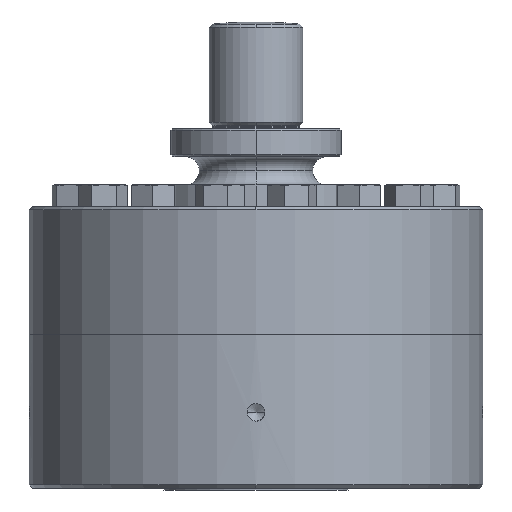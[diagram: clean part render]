
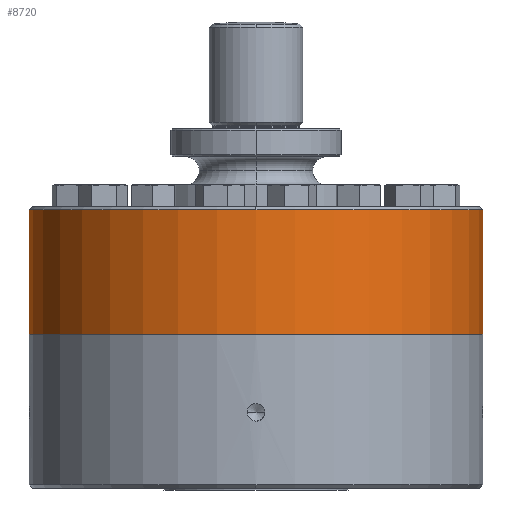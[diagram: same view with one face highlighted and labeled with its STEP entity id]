
A CAD part, left-side view. The second image highlights one B-rep face of the part: STEP entity #8720.
In plain terms, the highlighted cylindrical face has radius 101.575 mm (diameter 203.149 mm), a partial arc.
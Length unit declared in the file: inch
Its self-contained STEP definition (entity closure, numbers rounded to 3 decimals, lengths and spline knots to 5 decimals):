
#412 = VERTEX_POINT ( 'NONE', #13146 ) ;
#655 = EDGE_CURVE ( 'NONE', #11133, #412, #13247, .T. ) ;
#1732 = CIRCLE ( 'NONE', #1733, 3.999 ) ;
#1733 = AXIS2_PLACEMENT_3D ( 'NONE', #1734, #1735, #1736 ) ;
#1734 = CARTESIAN_POINT ( 'NONE',  ( 0., 0., 2.19 ) ) ;
#1735 = DIRECTION ( 'NONE',  ( 0., 0., 1. ) ) ;
#1736 = DIRECTION ( 'NONE',  ( -1., 0., 0. ) ) ;
#3577 = FACE_OUTER_BOUND ( 'NONE', #8431, .T. ) ;
#3578 = CYLINDRICAL_SURFACE ( 'NONE', #3579, 3.999 ) ;
#3579 = AXIS2_PLACEMENT_3D ( 'NONE', #3580, #3581, #3582 ) ;
#3580 = CARTESIAN_POINT ( 'NONE',  ( 0., 0., 2.19 ) ) ;
#3581 = DIRECTION ( 'NONE',  ( 0., 0., -1. ) ) ;
#3582 = DIRECTION ( 'NONE',  ( 0., 1., 0. ) ) ;
#4847 = CARTESIAN_POINT ( 'NONE',  ( 0., -3.999, 2.19 ) ) ;
#5503 = ORIENTED_EDGE ( 'NONE', *, *, #11254, .F. ) ;
#5733 = CARTESIAN_POINT ( 'NONE',  ( 0., 3.999, 2.19 ) ) ;
#5791 = EDGE_CURVE ( 'NONE', #412, #10538, #1732, .T. ) ;
#6000 = LINE ( 'NONE', #6001, #6002 ) ;
#6001 = CARTESIAN_POINT ( 'NONE',  ( 0., 3.999, 2.19 ) ) ;
#6002 = VECTOR ( 'NONE', #6003, 39.37008 ) ;
#6003 = DIRECTION ( 'NONE',  ( 0., 0., -1. ) ) ;
#6091 = ORIENTED_EDGE ( 'NONE', *, *, #11198, .T. ) ;
#6110 = CIRCLE ( 'NONE', #6111, 3.999 ) ;
#6111 = AXIS2_PLACEMENT_3D ( 'NONE', #6112, #6113, #6114 ) ;
#6112 = CARTESIAN_POINT ( 'NONE',  ( 0., 0., 0. ) ) ;
#6113 = DIRECTION ( 'NONE',  ( 0., 0., -1. ) ) ;
#6114 = DIRECTION ( 'NONE',  ( 0., 1., 0. ) ) ;
#6432 = CARTESIAN_POINT ( 'NONE',  ( 0., 3.999, 0. ) ) ;
#6683 = ORIENTED_EDGE ( 'NONE', *, *, #655, .F. ) ;
#7198 = CARTESIAN_POINT ( 'NONE',  ( 0., -3.999, 0. ) ) ;
#7262 = ORIENTED_EDGE ( 'NONE', *, *, #5791, .F. ) ;
#7302 = LINE ( 'NONE', #7304, #7305 ) ;
#7304 = CARTESIAN_POINT ( 'NONE',  ( 0., -3.999, 2.19 ) ) ;
#7305 = VECTOR ( 'NONE', #7306, 39.37008 ) ;
#7306 = DIRECTION ( 'NONE',  ( 0., 0., -1. ) ) ;
#7841 = ORIENTED_EDGE ( 'NONE', *, *, #11761, .F. ) ;
#8431 = EDGE_LOOP ( 'NONE', ( #7841, #7262, #6683, #6091, #5503 ) ) ;
#8720 = ADVANCED_FACE ( 'NONE', ( #3577 ), #3578, .T. ) ;
#10538 = VERTEX_POINT ( 'NONE', #4847 ) ;
#11133 = VERTEX_POINT ( 'NONE', #5733 ) ;
#11198 = EDGE_CURVE ( 'NONE', #11133, #11420, #6000, .T. ) ;
#11254 = EDGE_CURVE ( 'NONE', #11716, #11420, #6110, .T. ) ;
#11420 = VERTEX_POINT ( 'NONE', #6432 ) ;
#11716 = VERTEX_POINT ( 'NONE', #7198 ) ;
#11761 = EDGE_CURVE ( 'NONE', #10538, #11716, #7302, .T. ) ;
#13146 = CARTESIAN_POINT ( 'NONE',  ( -3.999, 0., 2.19 ) ) ;
#13247 = CIRCLE ( 'NONE', #13248, 3.999 ) ;
#13248 = AXIS2_PLACEMENT_3D ( 'NONE', #13249, #13250, #13251 ) ;
#13249 = CARTESIAN_POINT ( 'NONE',  ( 0., 0., 2.19 ) ) ;
#13250 = DIRECTION ( 'NONE',  ( 0., 0., 1. ) ) ;
#13251 = DIRECTION ( 'NONE',  ( -1., 0., 0. ) ) ;
